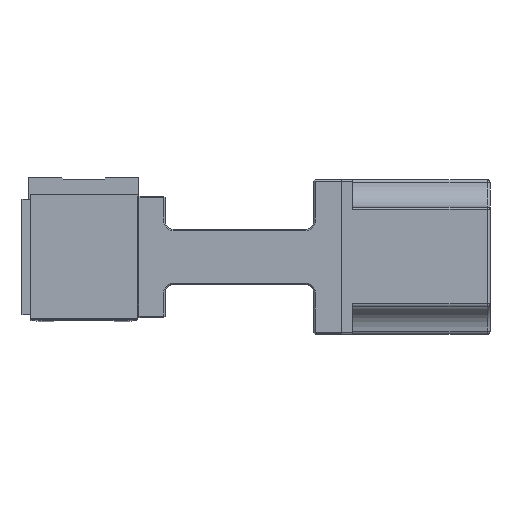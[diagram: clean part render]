
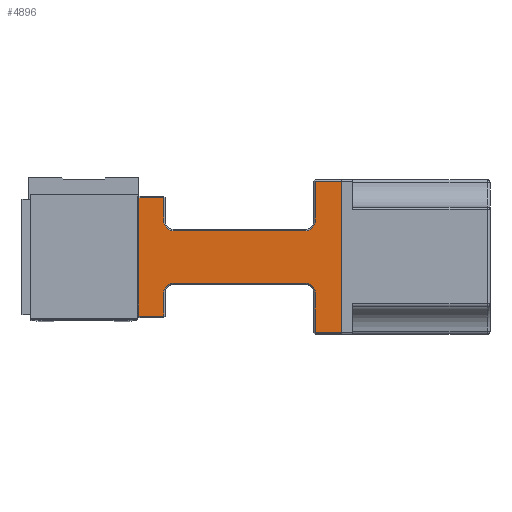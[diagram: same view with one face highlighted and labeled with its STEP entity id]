
A CAD part, top view. The second image highlights one B-rep face of the part: STEP entity #4896.
In plain terms, the highlighted planar face has unit normal (0, 0, 1).
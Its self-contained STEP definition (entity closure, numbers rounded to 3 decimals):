
#4867 = VERTEX_POINT ( 'NONE', #11149 ) ;
#4868 = EDGE_CURVE ( 'NONE', #4874, #4893, #11131, .T. ) ;
#4869 = ORIENTED_EDGE ( 'NONE', *, *, #4868, .T. ) ;
#4870 = ORIENTED_EDGE ( 'NONE', *, *, #4883, .T. ) ;
#4871 = ORIENTED_EDGE ( 'NONE', *, *, #4891, .T. ) ;
#4872 = ORIENTED_EDGE ( 'NONE', *, *, #4935, .T. ) ;
#4873 = VERTEX_POINT ( 'NONE', #11146 ) ;
#4874 = VERTEX_POINT ( 'NONE', #11136 ) ;
#4875 = EDGE_CURVE ( 'NONE', #4903, #4873, #11185, .T. ) ;
#4876 = ORIENTED_EDGE ( 'NONE', *, *, #4884, .T. ) ;
#4877 = ORIENTED_EDGE ( 'NONE', *, *, #4881, .T. ) ;
#4878 = ORIENTED_EDGE ( 'NONE', *, *, #4875, .T. ) ;
#4879 = EDGE_CURVE ( 'NONE', #4873, #4895, #11132, .T. ) ;
#4880 = VERTEX_POINT ( 'NONE', #11145 ) ;
#4881 = EDGE_CURVE ( 'NONE', #4895, #4885, #11178, .T. ) ;
#4882 = VERTEX_POINT ( 'NONE', #11174 ) ;
#4883 = EDGE_CURVE ( 'NONE', #4893, #4880, #11169, .T. ) ;
#4884 = EDGE_CURVE ( 'NONE', #4885, #4874, #11170, .T. ) ;
#4885 = VERTEX_POINT ( 'NONE', #11171 ) ;
#4891 = EDGE_CURVE ( 'NONE', #4880, #4882, #11218, .T. ) ;
#4892 = VERTEX_POINT ( 'NONE', #11217 ) ;
#4893 = VERTEX_POINT ( 'NONE', #11216 ) ;
#4894 = ORIENTED_EDGE ( 'NONE', *, *, #4879, .T. ) ;
#4895 = VERTEX_POINT ( 'NONE', #11212 ) ;
#4896 = ADVANCED_FACE ( 'NONE', ( #11207 ), #11164, .F. ) ;
#4897 = ORIENTED_EDGE ( 'NONE', *, *, #4899, .T. ) ;
#4898 = ORIENTED_EDGE ( 'NONE', *, *, #4901, .F. ) ;
#4899 = EDGE_CURVE ( 'NONE', #4900, #4903, #11204, .T. ) ;
#4900 = VERTEX_POINT ( 'NONE', #11208 ) ;
#4901 = EDGE_CURVE ( 'NONE', #4900, #4892, #11196, .T. ) ;
#4903 = VERTEX_POINT ( 'NONE', #11206 ) ;
#4907 = EDGE_LOOP ( 'NONE', ( #4898, #4897, #4878, #4894, #4877, #4876, #4869, #4870, #4871, #4872, #4942, #4941, #4948, #4950, #4926, #4927 ) ) ;
#4926 = ORIENTED_EDGE ( 'NONE', *, *, #4947, .T. ) ;
#4927 = ORIENTED_EDGE ( 'NONE', *, *, #4944, .T. ) ;
#4935 = EDGE_CURVE ( 'NONE', #4882, #4940, #11239, .T. ) ;
#4936 = VERTEX_POINT ( 'NONE', #11282 ) ;
#4937 = VERTEX_POINT ( 'NONE', #11279 ) ;
#4938 = VERTEX_POINT ( 'NONE', #11273 ) ;
#4939 = VERTEX_POINT ( 'NONE', #11284 ) ;
#4940 = VERTEX_POINT ( 'NONE', #11275 ) ;
#4941 = ORIENTED_EDGE ( 'NONE', *, *, #4943, .T. ) ;
#4942 = ORIENTED_EDGE ( 'NONE', *, *, #4945, .T. ) ;
#4943 = EDGE_CURVE ( 'NONE', #4938, #4936, #11226, .T. ) ;
#4944 = EDGE_CURVE ( 'NONE', #4937, #4892, #11267, .T. ) ;
#4945 = EDGE_CURVE ( 'NONE', #4940, #4938, #11274, .T. ) ;
#4947 = EDGE_CURVE ( 'NONE', #4939, #4937, #11258, .T. ) ;
#4948 = ORIENTED_EDGE ( 'NONE', *, *, #4949, .T. ) ;
#4949 = EDGE_CURVE ( 'NONE', #4936, #4867, #7925, .T. ) ;
#4950 = ORIENTED_EDGE ( 'NONE', *, *, #4951, .T. ) ;
#4951 = EDGE_CURVE ( 'NONE', #4867, #4939, #8461, .T. ) ;
#7924 = CARTESIAN_POINT ( 'NONE',  ( 29.5, -9.5, 386. ) ) ;
#7925 = LINE ( 'NONE', #7924, #7928 ) ;
#7928 = VECTOR ( 'NONE', #7961, 1000. ) ;
#7961 = DIRECTION ( 'NONE',  ( 1., 0., 0. ) ) ;
#8456 = AXIS2_PLACEMENT_3D ( 'NONE', #8462, #8468, #8467 ) ;
#8461 = CIRCLE ( 'NONE', #8456, 3.5 ) ;
#8462 = CARTESIAN_POINT ( 'NONE',  ( 80.5, -13., 386. ) ) ;
#8467 = DIRECTION ( 'NONE',  ( -1., 0., 0. ) ) ;
#8468 = DIRECTION ( 'NONE',  ( 0., 0., -1. ) ) ;
#11128 = DIRECTION ( 'NONE',  ( 0., 1., 0. ) ) ;
#11129 = VECTOR ( 'NONE', #11128, 1000. ) ;
#11130 = CARTESIAN_POINT ( 'NONE',  ( 29., 22., 386. ) ) ;
#11131 = LINE ( 'NONE', #11130, #11129 ) ;
#11132 = CIRCLE ( 'NONE', #11181, 3.5 ) ;
#11133 = CARTESIAN_POINT ( 'NONE',  ( 32.5, 13., 386. ) ) ;
#11136 = CARTESIAN_POINT ( 'NONE',  ( 29., 13., 386. ) ) ;
#11145 = CARTESIAN_POINT ( 'NONE',  ( 20., 21.5, 386. ) ) ;
#11146 = CARTESIAN_POINT ( 'NONE',  ( 84., 13., 386. ) ) ;
#11149 = CARTESIAN_POINT ( 'NONE',  ( 80.5, -9.5, 386. ) ) ;
#11163 = DIRECTION ( 'NONE',  ( -1., 0., 0. ) ) ;
#11164 = PLANE ( 'NONE',  #11211 ) ;
#11166 = DIRECTION ( 'NONE',  ( -1., 0., 0. ) ) ;
#11167 = VECTOR ( 'NONE', #11166, 1000. ) ;
#11168 = CARTESIAN_POINT ( 'NONE',  ( 29.5, 21.5, 386. ) ) ;
#11169 = LINE ( 'NONE', #11168, #11167 ) ;
#11170 = CIRCLE ( 'NONE', #11180, 3.5 ) ;
#11171 = CARTESIAN_POINT ( 'NONE',  ( 32.5, 9.5, 386. ) ) ;
#11172 = DIRECTION ( 'NONE',  ( -1., 0., 0. ) ) ;
#11173 = VECTOR ( 'NONE', #11172, 1000. ) ;
#11174 = CARTESIAN_POINT ( 'NONE',  ( 20., -21.5, 386. ) ) ;
#11175 = DIRECTION ( 'NONE',  ( -1., 0., 0. ) ) ;
#11176 = DIRECTION ( 'NONE',  ( 0., 0., -1. ) ) ;
#11177 = CARTESIAN_POINT ( 'NONE',  ( 29.5, 9.5, 386. ) ) ;
#11178 = LINE ( 'NONE', #11177, #11173 ) ;
#11179 = DIRECTION ( 'NONE',  ( 0., 0., -1. ) ) ;
#11180 = AXIS2_PLACEMENT_3D ( 'NONE', #11133, #11179, #11163 ) ;
#11181 = AXIS2_PLACEMENT_3D ( 'NONE', #11186, #11176, #11175 ) ;
#11182 = DIRECTION ( 'NONE',  ( 0., -1., 0. ) ) ;
#11183 = VECTOR ( 'NONE', #11182, 1000. ) ;
#11184 = CARTESIAN_POINT ( 'NONE',  ( 84., 22., 386. ) ) ;
#11185 = LINE ( 'NONE', #11184, #11183 ) ;
#11186 = CARTESIAN_POINT ( 'NONE',  ( 80.5, 13., 386. ) ) ;
#11193 = DIRECTION ( 'NONE',  ( 0., -1., 0. ) ) ;
#11194 = VECTOR ( 'NONE', #11193, 1000. ) ;
#11195 = CARTESIAN_POINT ( 'NONE',  ( 93.5, -28., 386. ) ) ;
#11196 = LINE ( 'NONE', #11195, #11194 ) ;
#11199 = DIRECTION ( 'NONE',  ( -1., 0., 0. ) ) ;
#11200 = VECTOR ( 'NONE', #11199, 1000. ) ;
#11201 = CARTESIAN_POINT ( 'NONE',  ( 29.5, 27.5, 386. ) ) ;
#11202 = DIRECTION ( 'NONE',  ( -1., 0., 0. ) ) ;
#11203 = DIRECTION ( 'NONE',  ( 0., 0., -1. ) ) ;
#11204 = LINE ( 'NONE', #11201, #11200 ) ;
#11206 = CARTESIAN_POINT ( 'NONE',  ( 84., 27.5, 386. ) ) ;
#11207 = FACE_OUTER_BOUND ( 'NONE', #4907, .T. ) ;
#11208 = CARTESIAN_POINT ( 'NONE',  ( 93.5, 27.5, 386. ) ) ;
#11211 = AXIS2_PLACEMENT_3D ( 'NONE', #11223, #11203, #11202 ) ;
#11212 = CARTESIAN_POINT ( 'NONE',  ( 80.5, 9.5, 386. ) ) ;
#11213 = DIRECTION ( 'NONE',  ( 0., -1., 0. ) ) ;
#11214 = VECTOR ( 'NONE', #11213, 1000. ) ;
#11215 = CARTESIAN_POINT ( 'NONE',  ( 20., -22., 386. ) ) ;
#11216 = CARTESIAN_POINT ( 'NONE',  ( 29., 21.5, 386. ) ) ;
#11217 = CARTESIAN_POINT ( 'NONE',  ( 93.5, -27.5, 386. ) ) ;
#11218 = LINE ( 'NONE', #11215, #11214 ) ;
#11223 = CARTESIAN_POINT ( 'NONE',  ( 29.5, 22., 386. ) ) ;
#11226 = CIRCLE ( 'NONE', #11271, 3.5 ) ;
#11239 = LINE ( 'NONE', #11278, #11277 ) ;
#11255 = DIRECTION ( 'NONE',  ( 0., -1., 0. ) ) ;
#11256 = VECTOR ( 'NONE', #11255, 1000. ) ;
#11257 = CARTESIAN_POINT ( 'NONE',  ( 84., 22., 386. ) ) ;
#11258 = LINE ( 'NONE', #11257, #11256 ) ;
#11260 = DIRECTION ( 'NONE',  ( 0., 1., 0. ) ) ;
#11261 = VECTOR ( 'NONE', #11260, 1000. ) ;
#11262 = CARTESIAN_POINT ( 'NONE',  ( 29., 22., 386. ) ) ;
#11264 = DIRECTION ( 'NONE',  ( 1., 0., 0. ) ) ;
#11265 = VECTOR ( 'NONE', #11264, 1000. ) ;
#11266 = CARTESIAN_POINT ( 'NONE',  ( 29.5, -27.5, 386. ) ) ;
#11267 = LINE ( 'NONE', #11266, #11265 ) ;
#11268 = DIRECTION ( 'NONE',  ( -1., 0., 0. ) ) ;
#11269 = DIRECTION ( 'NONE',  ( 0., 0., -1. ) ) ;
#11270 = CARTESIAN_POINT ( 'NONE',  ( 32.5, -13., 386. ) ) ;
#11271 = AXIS2_PLACEMENT_3D ( 'NONE', #11270, #11269, #11268 ) ;
#11273 = CARTESIAN_POINT ( 'NONE',  ( 29., -13., 386. ) ) ;
#11274 = LINE ( 'NONE', #11262, #11261 ) ;
#11275 = CARTESIAN_POINT ( 'NONE',  ( 29., -21.5, 386. ) ) ;
#11276 = DIRECTION ( 'NONE',  ( 1., 0., 0. ) ) ;
#11277 = VECTOR ( 'NONE', #11276, 1000. ) ;
#11278 = CARTESIAN_POINT ( 'NONE',  ( 29.5, -21.5, 386. ) ) ;
#11279 = CARTESIAN_POINT ( 'NONE',  ( 84., -27.5, 386. ) ) ;
#11282 = CARTESIAN_POINT ( 'NONE',  ( 32.5, -9.5, 386. ) ) ;
#11284 = CARTESIAN_POINT ( 'NONE',  ( 84., -13., 386. ) ) ;
